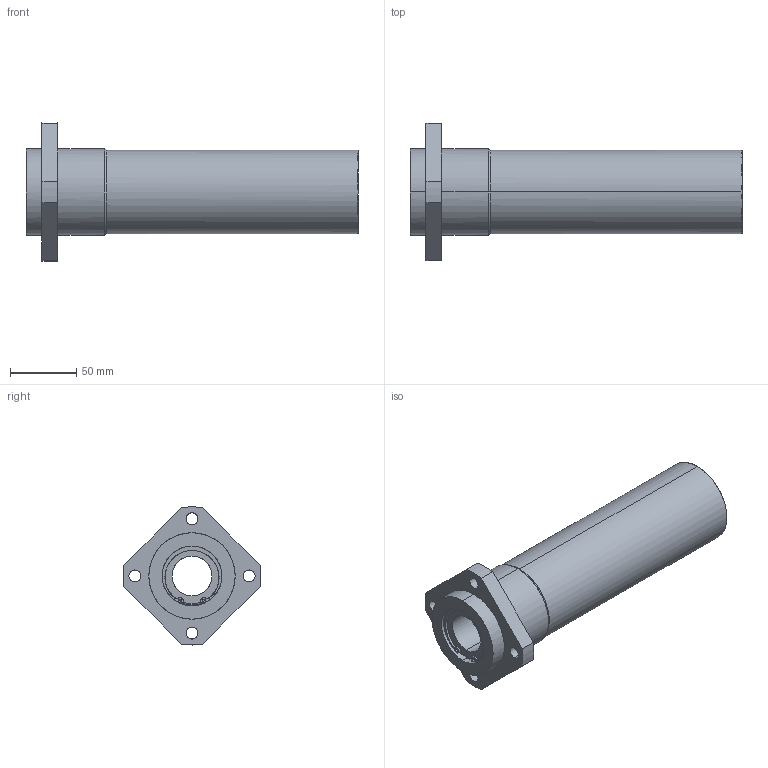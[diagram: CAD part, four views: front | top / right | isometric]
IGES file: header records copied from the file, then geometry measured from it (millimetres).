
Global section: file name: No Iges File Name specified; native system: AutoDesk Inventor R11.0; preprocessor: AutoDesk Inventor Iges Exporter R11.0; author: No Author specified; organization: No Organization specified; date: 20170922.140503; units: millimetre
Bounding box: 250 x 103.86 x 103.93 mm (x, y, z)
Surface area: 96239.2 mm2 (no closed solid volume)
Topology: 0 solids, 0 shells, 133 faces, 984 edges, 984 vertices
Faces by surface type: bspline 133
